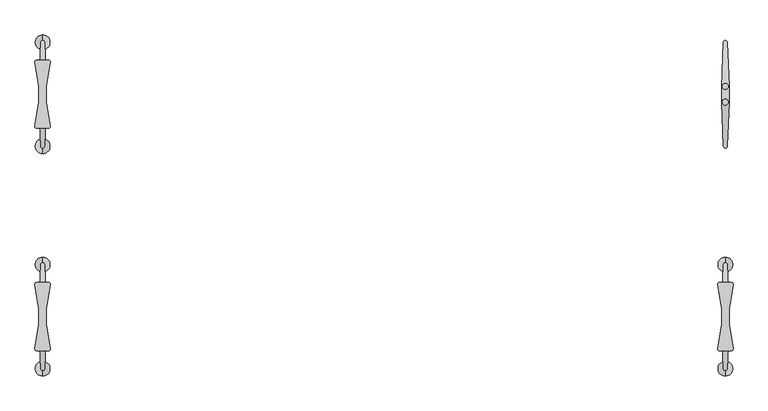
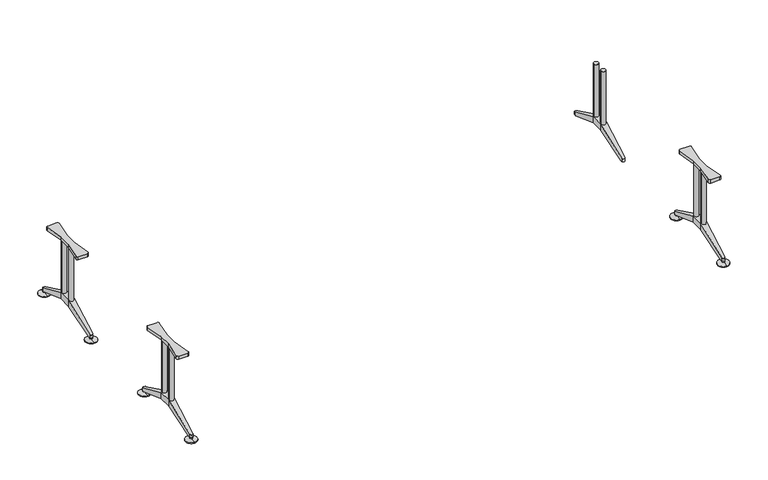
"""IFC4 building model written with IfcOpenShell, lengths in millimetres: furniture geometry, Furniture_Wilkhahn_620-46_Logon Table-Rectangle : Logon 620/46_5200L x 3000W x 730H."""

from ifc_helpers import new_model, si_unit, point, frame, frame_2d, origin, place, context, project, spatial, polyline, circle_curve, ellipse_curve, trimmed, segment, composite_curve, outline, extrude, source, transform, mapped, element, save
from ifc_brep_helpers import plane_surface, cylinder_surface, revolved_surface, advanced_brep


def furniture_3627eb8b(model_context):
    return source(origin(), model_context, "Body", "SolidModel", [
        advanced_brep(
        [(2275.0, 828.9511544, 140.0), (2275.0, 722.9511544, 140.0), (2275.0, 722.9511544, 195.0), (2275.0, 828.9511544, 195.0), (2325.0, 828.9511544, 195.0), (2325.0, 722.9511544, 195.0), (2325.0, 722.9511544, 140.0), (2325.0, 828.9511544, 140.0), (2313.4930419, 1113.9998784, 27.0), (2286.5069581, 1113.9998784, 27.0), (2287.0105795, 1126.4755164, 27.0), (2300.0, 1138.9511544, 27.0), (2312.9894205, 1126.4755164, 27.0), (2312.9894205, 1126.4755164, 56.4159205), (2300.0, 1138.9511544, 50.6048844), (2287.0105795, 1126.4755164, 56.4159205), (2312.9894205, 425.4267924, 56.4159205), (2312.9894205, 425.4267924, 27.0), (2313.4930419, 437.9024304, 27.0), (2287.0105795, 425.4267924, 27.0), (2287.0105795, 425.4267924, 56.4159205), (2286.5069581, 437.9024304, 27.0), (2300.0, 412.9511544, 27.0), (2300.0, 412.9511544, 50.6048844)],
        [
            (0, 1),
            (1, 2),
            (2, 3),
            (3, 0),
            (4, 5),
            (5, 6),
            (6, 7),
            (7, 4),
            (8, 9),
            (9, 10),
            (10, 11, circle_curve(frame((2300.0, 1125.9511544, 27.0), z_axis=(0.0, 0.0, -1.0), x_axis=(1.0000000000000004, 0.0, 0.0)), 13.0)),
            (11, 12, circle_curve(frame((2300.0, 1125.9511544, 27.0), z_axis=(0.0, 0.0, -1.0), x_axis=(1.0000000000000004, 0.0, 0.0)), 13.0)),
            (12, 8),
            (3, 4),
            (4, 13),
            (13, 14, ellipse_curve(frame((2300.0, 1125.9511544, 56.6601634), z_axis=(0.0, 0.42223330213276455, 0.9064871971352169), x_axis=(0.0, 0.9064871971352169, -0.42223330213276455)), 14.341074, 13.0)),
            (14, 15, ellipse_curve(frame((2300.0, 1125.9511544, 56.6601634), z_axis=(0.0, 0.42223330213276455, 0.9064871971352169), x_axis=(0.0, 0.9064871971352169, -0.42223330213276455)), 14.341074, 13.0)),
            (15, 3),
            (7, 0),
            (0, 9),
            (8, 7),
            (16, 17),
            (17, 18),
            (18, 6),
            (5, 16),
            (19, 20),
            (20, 2),
            (1, 21),
            (21, 19),
            (2, 5),
            (6, 1),
            (19, 22, circle_curve(frame((2300.0, 425.9511544, 27.0), z_axis=(0.0, 0.0, 1.0), x_axis=(1.0000000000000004, 0.0, 0.0)), 13.0)),
            (22, 17, circle_curve(frame((2300.0, 425.9511544, 27.0), z_axis=(0.0, 0.0, 1.0), x_axis=(1.0000000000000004, 0.0, 0.0)), 13.0)),
            (16, 23, ellipse_curve(frame((2300.0, 425.9511544, 56.6601634), z_axis=(0.0, 0.42223330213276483, -0.906487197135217), x_axis=(0.0, -0.906487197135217, -0.42223330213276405)), 14.341074, 13.0)),
            (23, 20, ellipse_curve(frame((2300.0, 425.9511544, 56.6601634), z_axis=(0.0, 0.42223330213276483, -0.906487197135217), x_axis=(0.0, -0.906487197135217, -0.42223330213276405)), 14.341074, 13.0)),
            (15, 10),
            (13, 12),
            (21, 18),
        ],
        [
            plane_surface(frame((2275.0, 1122.2046146, 27.0), z_axis=(-1.0, 0.0, 0.0), x_axis=(0.0, -1.0, 0.0))),
            plane_surface(frame((2325.0, 1122.2046146, 27.0), z_axis=(1.0, 0.0, 0.0), x_axis=(0.0, 1.0, 0.0))),
            plane_surface(frame((2325.0, 1113.9998784, 27.0), z_axis=(0.0, 0.0, -1.0), x_axis=(-1.0, 0.0, 0.0))),
            plane_surface(frame((2325.0, 1138.9511544, 50.6048844), z_axis=(0.0, 0.42223330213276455, 0.9064871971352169), x_axis=(-1.0, 0.0, 0.0))),
            plane_surface(frame((2325.0, 828.9511544, 140.0), z_axis=(0.0, -0.36852267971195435, -0.9296187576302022), x_axis=(-1.0, 0.0, 0.0))),
            plane_surface(frame((2325.0, 722.9511544, 195.0), z_axis=(0.9991861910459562, -0.04033553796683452, 0.0), x_axis=(0.0, 0.0, -1.0))),
            plane_surface(frame((2287.0105795, 425.4267924, 195.0), z_axis=(-0.9991861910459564, -0.0403355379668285, 0.0), x_axis=(0.0, 0.0, -1.0))),
            plane_surface(frame((2325.0, 828.9511544, 195.0), z_axis=(0.0, 0.0, 1.0), x_axis=(-1.0, 0.0, 0.0))),
            plane_surface(frame((2325.0, 722.9511544, 140.0), z_axis=(0.0, 0.0, -1.0), x_axis=(-1.0, 0.0, 0.0))),
            cylinder_surface(frame((2300.0, 425.9511544, 0.0), z_axis=(0.0, 0.0, -1.0), x_axis=(1.0000000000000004, 0.0, 0.0)), 13.0),
            plane_surface(frame((2275.0, 828.9511544, 195.0), z_axis=(-0.9991861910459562, 0.040335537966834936, 0.0), x_axis=(0.0, 0.0, -1.0))),
            cylinder_surface(frame((2300.0, 1125.9511544, -14.190167), z_axis=(0.0, 0.0, -1.0), x_axis=(1.0000000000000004, 0.0, 0.0)), 13.0),
            plane_surface(frame((2312.9894205, 1126.4755164, 195.0), z_axis=(0.9991861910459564, 0.04033553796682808, 0.0), x_axis=(0.0, 0.0, -1.0))),
            plane_surface(frame((2325.0, 722.9511544, 195.0), z_axis=(0.0, -0.4222333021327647, 0.9064871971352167), x_axis=(-1.0, 0.0, 0.0))),
            plane_surface(frame((2325.0, 412.9511544, 27.0), z_axis=(0.0, 0.0, -1.0), x_axis=(-1.0, 0.0, 0.0))),
            plane_surface(frame((2325.0, 437.9024304, 27.0), z_axis=(0.0, 0.36852267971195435, -0.929618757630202), x_axis=(-1.0, 0.0, 0.0))),
        ],
        [
            (0, [[1, 2, 3, 4]]),
            (1, [[5, 6, 7, 8]]),
            (2, [[9, 10, 11, 12, 13]]),
            (3, [[14, 15, 16, 17, 18]]),
            (4, [[19, 20, -9, 21]]),
            (5, [[22, 23, 24, -6, 25]]),
            (6, [[26, 27, -2, 28, 29]]),
            (7, [[-3, 30, -5, -14]]),
            (8, [[-1, -19, -7, 31]]),
            (9, [[-26, 32, 33, -22, 34, 35]]),
            (10, [[36, -10, -20, -4, -18]]),
            (11, [[-36, -17, -16, 37, -12, -11]]),
            (12, [[-37, -15, -8, -21, -13]]),
            (13, [[-30, -27, -35, -34, -25]]),
            (14, [[38, -23, -33, -32, -29]]),
            (15, [[-31, -24, -38, -28]]),
        ],
    ),
        extrude(outline(composite_curve([segment(trimmed(circle_curve(frame_2d((2300.0, 722.9511544)), 20.0), [point((2280.0, 722.9511544))], [point((2320.0, 722.9511544))], False, "CARTESIAN"), True, "CONTINUOUS"), segment(trimmed(circle_curve(frame_2d((2300.0, 722.9511544)), 20.0), [point((2320.0, 722.9511544))], [point((2280.0, 722.9511544))], False, "CARTESIAN"), True, "CONTINUOUS")], self_intersect=False)), frame((0.0, 0.0, 140.0), z_axis=(0.0, 0.0, 1.0), x_axis=(1.0, 0.0, 0.0)), (0.0, 0.0, 1.0), 535.0),
        extrude(outline(composite_curve([segment(trimmed(circle_curve(frame_2d((2300.0, 828.9511544)), 20.0), [point((2280.0, 828.9511544))], [point((2320.0, 828.9511544))], False, "CARTESIAN"), True, "CONTINUOUS"), segment(trimmed(circle_curve(frame_2d((2300.0, 828.9511544)), 20.0), [point((2320.0, 828.9511544))], [point((2280.0, 828.9511544))], False, "CARTESIAN"), True, "CONTINUOUS")], self_intersect=False)), frame((0.0, 0.0, 140.0), z_axis=(0.0, 0.0, 1.0), x_axis=(1.0, 0.0, 0.0)), (0.0, 0.0, 1.0), 535.0),
        advanced_brep(
        [(-2300.0, 425.4267924, 0.0), (-2300.0, 475.4267924, 0.0), (-2300.0, 375.4267924, 0.0), (-2300.0, 475.4267924, 6.0), (-2300.0, 375.4267924, 6.0), (-2300.0, 437.9024304, 17.0), (-2300.0, 412.9511544, 17.0), (-2300.0, 437.9024304, 27.0), (-2300.0, 412.9511544, 27.0), (-2300.0, 425.4267924, 27.0)],
        [
            (0, 1),
            (1, 2, circle_curve(frame((-2300.0, 425.4267924, 0.0), z_axis=(0.0, 0.0, -1.0), x_axis=(0.0, -1.0000000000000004, 0.0)), 50.0)),
            (2, 0),
            (2, 1, circle_curve(frame((-2300.0, 425.4267924, 0.0), z_axis=(0.0, 0.0, -1.0), x_axis=(0.0, -1.0000000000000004, 0.0)), 50.0)),
            (1, 3),
            (3, 4, circle_curve(frame((-2300.0, 425.4267924, 6.0), z_axis=(0.0, 0.0, -1.0), x_axis=(0.0, -1.0000000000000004, 0.0)), 50.0)),
            (4, 2),
            (4, 3, circle_curve(frame((-2300.0, 425.4267924, 6.0), z_axis=(0.0, 0.0, -1.0), x_axis=(0.0, -1.0000000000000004, 0.0)), 50.0)),
            (3, 5),
            (5, 6, circle_curve(frame((-2300.0, 425.4267924, 17.0), z_axis=(0.0, 0.0, -1.0), x_axis=(0.0, -1.0000000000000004, 0.0)), 12.475638)),
            (6, 4),
            (6, 5, circle_curve(frame((-2300.0, 425.4267924, 17.0), z_axis=(0.0, 0.0, -1.0), x_axis=(0.0, -1.0000000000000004, 0.0)), 12.475638)),
            (5, 7),
            (7, 8, circle_curve(frame((-2300.0, 425.4267924, 27.0), z_axis=(0.0, 0.0, -1.0), x_axis=(0.0, -1.0000000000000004, 0.0)), 12.475638)),
            (8, 6),
            (8, 7, circle_curve(frame((-2300.0, 425.4267924, 27.0), z_axis=(0.0, 0.0, -1.0), x_axis=(0.0, -1.0000000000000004, 0.0)), 12.475638)),
            (7, 9),
            (9, 8),
        ],
        [
            plane_surface(frame((-2300.0, 425.4267924, 0.0), z_axis=(0.0, 0.0, -1.0), x_axis=(0.0, -1.0, 0.0))),
            cylinder_surface(frame((-2300.0, 425.4267924, 27.0), z_axis=(0.0, 0.0, -1.0), x_axis=(0.0, -1.0000000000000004, 0.0)), 50.0),
            revolved_surface(polyline([(-2300.0, 412.9511544, 17.0), (-2300.0, 375.4267924, 6.0)]), (-2300.0, 425.4267924, 27.0), (0.0, 0.0, -1.0)),
            cylinder_surface(frame((-2300.0, 425.4267924, 27.0), z_axis=(0.0, 0.0, -1.0), x_axis=(0.0, -1.0000000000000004, 0.0)), 12.475638),
            plane_surface(frame((-2300.0, 425.4267924, 27.0), z_axis=(0.0, 0.0, 1.0), x_axis=(0.0, -1.0, 0.0))),
        ],
        [
            (0, [[1, 2, 3]]),
            (0, [[-3, 4, -1]]),
            (1, [[5, 6, 7, -2]]),
            (1, [[-7, 8, -5, -4]]),
            (2, [[9, 10, 11, -6]]),
            (2, [[-11, 12, -9, -8]]),
            (3, [[13, 14, 15, -10]]),
            (3, [[-15, 16, -13, -12]]),
            (4, [[17, 18, -14]]),
            (4, [[-18, -17, -16]]),
        ],
    ),
        advanced_brep(
        [(-2300.0, 1076.4755164, 0.0), (-2300.0, 1126.4755164, 0.0), (-2300.0, 1176.4755164, 0.0), (-2300.0, 1076.4755164, 6.0), (-2300.0, 1176.4755164, 6.0), (-2300.0, 1113.9998784, 17.0), (-2300.0, 1138.9511544, 17.0), (-2300.0, 1113.9998784, 27.0), (-2300.0, 1138.9511544, 27.0), (-2300.0, 1126.4755164, 27.0)],
        [
            (0, 1),
            (1, 2),
            (2, 0, circle_curve(frame((-2300.0, 1126.4755164, 0.0), z_axis=(0.0, 0.0, -1.0), x_axis=(0.0, 1.0000000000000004, 0.0)), 50.0)),
            (0, 2, circle_curve(frame((-2300.0, 1126.4755164, 0.0), z_axis=(0.0, 0.0, -1.0), x_axis=(0.0, 1.0000000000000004, 0.0)), 50.0)),
            (3, 0),
            (2, 4),
            (4, 3, circle_curve(frame((-2300.0, 1126.4755164, 6.0), z_axis=(0.0, 0.0, -1.0), x_axis=(0.0, 1.0000000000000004, 0.0)), 50.0)),
            (3, 4, circle_curve(frame((-2300.0, 1126.4755164, 6.0), z_axis=(0.0, 0.0, -1.0), x_axis=(0.0, 1.0000000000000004, 0.0)), 50.0)),
            (5, 3),
            (4, 6),
            (6, 5, circle_curve(frame((-2300.0, 1126.4755164, 17.0), z_axis=(0.0, 0.0, -1.0), x_axis=(0.0, 1.0000000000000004, 0.0)), 12.475638)),
            (5, 6, circle_curve(frame((-2300.0, 1126.4755164, 17.0), z_axis=(0.0, 0.0, -1.0), x_axis=(0.0, 1.0000000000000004, 0.0)), 12.475638)),
            (7, 5),
            (6, 8),
            (8, 7, circle_curve(frame((-2300.0, 1126.4755164, 27.0), z_axis=(0.0, 0.0, -1.0), x_axis=(0.0, 1.0000000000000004, 0.0)), 12.475638)),
            (7, 8, circle_curve(frame((-2300.0, 1126.4755164, 27.0), z_axis=(0.0, 0.0, -1.0), x_axis=(0.0, 1.0000000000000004, 0.0)), 12.475638)),
            (9, 7),
            (8, 9),
        ],
        [
            plane_surface(frame((-2300.0, 1126.4755164, 0.0), z_axis=(0.0, 0.0, -1.0), x_axis=(0.0, 1.0, 0.0))),
            cylinder_surface(frame((-2300.0, 1126.4755164, 27.0), z_axis=(0.0, 0.0, 1.0), x_axis=(0.0, 1.0000000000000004, 0.0)), 50.0),
            revolved_surface(polyline([(-2300.0, 1176.4755164, 6.0), (-2300.0, 1138.9511544, 17.0)]), (-2300.0, 1126.4755164, 27.0), (0.0, 0.0, 1.0)),
            cylinder_surface(frame((-2300.0, 1126.4755164, 27.0), z_axis=(0.0, 0.0, 1.0), x_axis=(0.0, 1.0000000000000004, 0.0)), 12.475638),
            plane_surface(frame((-2300.0, 1126.4755164, 27.0), z_axis=(0.0, 0.0, 1.0), x_axis=(0.0, 1.0, 0.0))),
        ],
        [
            (0, [[1, 2, 3]]),
            (0, [[-2, -1, 4]]),
            (1, [[5, -3, 6, 7]]),
            (1, [[-6, -4, -5, 8]]),
            (2, [[9, -7, 10, 11]]),
            (2, [[-10, -8, -9, 12]]),
            (3, [[13, -11, 14, 15]]),
            (3, [[-14, -12, -13, 16]]),
            (4, [[17, -15, 18]]),
            (4, [[-18, -16, -17]]),
        ],
    ),
        extrude(outline(composite_curve([segment(polyline([(-2325.0, 722.9511544), (-2325.0, 828.9511544), (-2351.7160071, 992.0109222)]), True, "CONTINUOUS"), segment(trimmed(circle_curve(frame_2d((-2339.8739001, 993.9511544)), 12.0), [point((-2351.7160071, 992.0109222))], [point((-2339.8739001, 1005.9511544))], False, "CARTESIAN"), True, "CONTINUOUS"), segment(polyline([(-2339.8739001, 1005.9511544), (-2260.1260999, 1005.9511544)]), True, "CONTINUOUS"), segment(trimmed(circle_curve(frame_2d((-2260.1260999, 993.9511544)), 12.0), [point((-2260.1260999, 1005.9511544))], [point((-2248.2839929, 992.0109222))], False, "CARTESIAN"), True, "CONTINUOUS"), segment(polyline([(-2248.2839929, 992.0109222), (-2275.0, 828.9511544), (-2275.0, 722.9511544), (-2248.2839929, 559.8913867)]), True, "CONTINUOUS"), segment(trimmed(circle_curve(frame_2d((-2260.1260999, 557.9511544)), 12.0), [point((-2248.2839929, 559.8913867))], [point((-2260.1260999, 545.9511544))], False, "CARTESIAN"), True, "CONTINUOUS"), segment(polyline([(-2260.1260999, 545.9511544), (-2339.8739001, 545.9511544)]), True, "CONTINUOUS"), segment(trimmed(circle_curve(frame_2d((-2339.8739001, 557.9511544)), 12.0), [point((-2339.8739001, 545.9511544))], [point((-2351.7160071, 559.8913867))], False, "CARTESIAN"), True, "CONTINUOUS"), segment(polyline([(-2351.7160071, 559.8913867), (-2325.0, 722.9511544)]), True, "CONTINUOUS")], self_intersect=False)), frame((0.0, 0.0, 675.0), z_axis=(0.0, 0.0, 1.0), x_axis=(1.0, 0.0, 0.0)), (0.0, 0.0, 1.0), 29.0),
        advanced_brep(
        [(-2275.0, 828.9511544, 140.0), (-2275.0, 828.9511544, 195.0), (-2275.0, 722.9511544, 195.0), (-2275.0, 722.9511544, 140.0), (-2325.0, 828.9511544, 195.0), (-2325.0, 828.9511544, 140.0), (-2325.0, 722.9511544, 140.0), (-2325.0, 722.9511544, 195.0), (-2313.4930419, 1113.9998784, 27.0), (-2312.9894205, 1126.4755164, 27.0), (-2300.0, 1138.9511544, 27.0), (-2287.0105795, 1126.4755164, 27.0), (-2286.5069581, 1113.9998784, 27.0), (-2287.0105795, 1126.4755164, 56.4159205), (-2300.0, 1138.9511544, 50.6048844), (-2312.9894205, 1126.4755164, 56.4159205), (-2312.9894205, 425.4267924, 56.4159205), (-2313.4930419, 437.9024304, 27.0), (-2312.9894205, 425.4267924, 27.0), (-2287.0105795, 425.4267924, 27.0), (-2286.5069581, 437.9024304, 27.0), (-2287.0105795, 425.4267924, 56.4159205), (-2300.0, 412.9511544, 50.6048844), (-2300.0, 412.9511544, 27.0)],
        [
            (0, 1),
            (1, 2),
            (2, 3),
            (3, 0),
            (4, 5),
            (5, 6),
            (6, 7),
            (7, 4),
            (8, 9),
            (9, 10, circle_curve(frame((-2300.0, 1125.9511544, 27.0), z_axis=(0.0, 0.0, -1.0), x_axis=(-1.0000000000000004, 0.0, 0.0)), 13.0)),
            (10, 11, circle_curve(frame((-2300.0, 1125.9511544, 27.0), z_axis=(0.0, 0.0, -1.0), x_axis=(-1.0000000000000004, 0.0, 0.0)), 13.0)),
            (11, 12),
            (12, 8),
            (1, 13),
            (13, 14, ellipse_curve(frame((-2300.0, 1125.9511544, 56.6601634), z_axis=(0.0, 0.42223330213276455, 0.9064871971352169), x_axis=(0.0, 0.9064871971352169, -0.42223330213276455)), 14.341074, 13.0)),
            (14, 15, ellipse_curve(frame((-2300.0, 1125.9511544, 56.6601634), z_axis=(0.0, 0.42223330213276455, 0.9064871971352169), x_axis=(0.0, 0.9064871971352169, -0.42223330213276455)), 14.341074, 13.0)),
            (15, 4),
            (4, 1),
            (5, 8),
            (12, 0),
            (0, 5),
            (16, 7),
            (6, 17),
            (17, 18),
            (18, 16),
            (19, 20),
            (20, 3),
            (2, 21),
            (21, 19),
            (7, 2),
            (3, 6),
            (21, 22, ellipse_curve(frame((-2300.0, 425.9511544, 56.6601634), z_axis=(0.0, 0.42223330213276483, -0.906487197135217), x_axis=(0.0, -0.906487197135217, -0.42223330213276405)), 14.341074, 13.0)),
            (22, 16, ellipse_curve(frame((-2300.0, 425.9511544, 56.6601634), z_axis=(0.0, 0.42223330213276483, -0.906487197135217), x_axis=(0.0, -0.906487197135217, -0.42223330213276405)), 14.341074, 13.0)),
            (18, 23, circle_curve(frame((-2300.0, 425.9511544, 27.0), z_axis=(0.0, 0.0, 1.0), x_axis=(-1.0000000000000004, 0.0, 0.0)), 13.0)),
            (23, 19, circle_curve(frame((-2300.0, 425.9511544, 27.0), z_axis=(0.0, 0.0, 1.0), x_axis=(-1.0000000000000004, 0.0, 0.0)), 13.0)),
            (11, 13),
            (9, 15),
            (17, 20),
        ],
        [
            plane_surface(frame((-2275.0, 1122.2046146, 27.0), z_axis=(1.0, 0.0, 0.0), x_axis=(0.0, -1.0, 0.0))),
            plane_surface(frame((-2325.0, 1122.2046146, 27.0), z_axis=(-1.0, 0.0, 0.0), x_axis=(0.0, 1.0, 0.0))),
            plane_surface(frame((-2325.0, 1113.9998784, 27.0), z_axis=(0.0, 0.0, -1.0), x_axis=(1.0, 0.0, 0.0))),
            plane_surface(frame((-2325.0, 1138.9511544, 50.6048844), z_axis=(0.0, 0.42223330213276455, 0.9064871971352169), x_axis=(1.0, 0.0, 0.0))),
            plane_surface(frame((-2325.0, 828.9511544, 140.0), z_axis=(0.0, -0.36852267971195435, -0.9296187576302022), x_axis=(1.0, 0.0, 0.0))),
            plane_surface(frame((-2325.0, 722.9511544, 195.0), z_axis=(-0.9991861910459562, -0.04033553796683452, 0.0), x_axis=(0.0, 0.0, -1.0))),
            plane_surface(frame((-2287.0105795, 425.4267924, 195.0), z_axis=(0.9991861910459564, -0.0403355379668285, 0.0), x_axis=(0.0, 0.0, -1.0))),
            plane_surface(frame((-2325.0, 828.9511544, 195.0), z_axis=(0.0, 0.0, 1.0), x_axis=(1.0, 0.0, 0.0))),
            plane_surface(frame((-2325.0, 722.9511544, 140.0), z_axis=(0.0, 0.0, -1.0), x_axis=(1.0, 0.0, 0.0))),
            cylinder_surface(frame((-2300.0, 425.9511544, 0.0), z_axis=(0.0, 0.0, -1.0), x_axis=(-1.0000000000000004, 0.0, 0.0)), 13.0),
            plane_surface(frame((-2275.0, 828.9511544, 195.0), z_axis=(0.9991861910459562, 0.040335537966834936, 0.0), x_axis=(0.0, 0.0, -1.0))),
            cylinder_surface(frame((-2300.0, 1125.9511544, -14.190167), z_axis=(0.0, 0.0, -1.0), x_axis=(-1.0000000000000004, 0.0, 0.0)), 13.0),
            plane_surface(frame((-2312.9894205, 1126.4755164, 195.0), z_axis=(-0.9991861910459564, 0.04033553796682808, 0.0), x_axis=(0.0, 0.0, -1.0))),
            plane_surface(frame((-2325.0, 722.9511544, 195.0), z_axis=(0.0, -0.4222333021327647, 0.9064871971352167), x_axis=(1.0, 0.0, 0.0))),
            plane_surface(frame((-2325.0, 412.9511544, 27.0), z_axis=(0.0, 0.0, -1.0), x_axis=(1.0, 0.0, 0.0))),
            plane_surface(frame((-2325.0, 437.9024304, 27.0), z_axis=(0.0, 0.36852267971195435, -0.929618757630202), x_axis=(1.0, 0.0, 0.0))),
        ],
        [
            (0, [[1, 2, 3, 4]]),
            (1, [[5, 6, 7, 8]]),
            (2, [[9, 10, 11, 12, 13]]),
            (3, [[14, 15, 16, 17, 18]]),
            (4, [[19, -13, 20, 21]]),
            (5, [[22, -7, 23, 24, 25]]),
            (6, [[26, 27, -3, 28, 29]]),
            (7, [[-18, -8, 30, -2]]),
            (8, [[31, -6, -21, -4]]),
            (9, [[32, 33, -25, 34, 35, -29]]),
            (10, [[-14, -1, -20, -12, 36]]),
            (11, [[-11, -10, 37, -16, -15, -36]]),
            (12, [[-9, -19, -5, -17, -37]]),
            (13, [[-22, -33, -32, -28, -30]]),
            (14, [[-26, -35, -34, -24, 38]]),
            (15, [[-27, -38, -23, -31]]),
        ],
    ),
        extrude(outline(composite_curve([segment(trimmed(circle_curve(frame_2d((-2300.0, 722.9511544)), 20.0), [point((-2280.0, 722.9511544))], [point((-2320.0, 722.9511544))], False, "CARTESIAN"), True, "CONTINUOUS"), segment(trimmed(circle_curve(frame_2d((-2300.0, 722.9511544)), 20.0), [point((-2320.0, 722.9511544))], [point((-2280.0, 722.9511544))], False, "CARTESIAN"), True, "CONTINUOUS")], self_intersect=False)), frame((0.0, 0.0, 140.0), z_axis=(0.0, 0.0, 1.0), x_axis=(1.0, 0.0, 0.0)), (0.0, 0.0, 1.0), 535.0),
        extrude(outline(composite_curve([segment(trimmed(circle_curve(frame_2d((-2300.0, 828.9511544)), 20.0), [point((-2280.0, 828.9511544))], [point((-2320.0, 828.9511544))], False, "CARTESIAN"), True, "CONTINUOUS"), segment(trimmed(circle_curve(frame_2d((-2300.0, 828.9511544)), 20.0), [point((-2320.0, 828.9511544))], [point((-2280.0, 828.9511544))], False, "CARTESIAN"), True, "CONTINUOUS")], self_intersect=False)), frame((0.0, 0.0, 140.0), z_axis=(0.0, 0.0, 1.0), x_axis=(1.0, 0.0, 0.0)), (0.0, 0.0, 1.0), 535.0),
        advanced_brep(
        [(2300.0, -373.5244836, 0.0), (2300.0, -423.5244836, 0.0), (2300.0, -323.5244836, 0.0), (2300.0, -423.5244836, 6.0), (2300.0, -323.5244836, 6.0), (2300.0, -386.0001216, 17.0), (2300.0, -361.0488456, 17.0), (2300.0, -386.0001216, 27.0), (2300.0, -361.0488456, 27.0), (2300.0, -373.5244836, 27.0)],
        [
            (0, 1),
            (1, 2, circle_curve(frame((2300.0, -373.5244836, 0.0), z_axis=(0.0, 0.0, -1.0), x_axis=(0.0, 1.0000000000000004, 0.0)), 50.0)),
            (2, 0),
            (2, 1, circle_curve(frame((2300.0, -373.5244836, 0.0), z_axis=(0.0, 0.0, -1.0), x_axis=(0.0, 1.0000000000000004, 0.0)), 50.0)),
            (1, 3),
            (3, 4, circle_curve(frame((2300.0, -373.5244836, 6.0), z_axis=(0.0, 0.0, -1.0), x_axis=(0.0, 1.0000000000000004, 0.0)), 50.0)),
            (4, 2),
            (4, 3, circle_curve(frame((2300.0, -373.5244836, 6.0), z_axis=(0.0, 0.0, -1.0), x_axis=(0.0, 1.0000000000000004, 0.0)), 50.0)),
            (3, 5),
            (5, 6, circle_curve(frame((2300.0, -373.5244836, 17.0), z_axis=(0.0, 0.0, -1.0), x_axis=(0.0, 1.0000000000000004, 0.0)), 12.475638)),
            (6, 4),
            (6, 5, circle_curve(frame((2300.0, -373.5244836, 17.0), z_axis=(0.0, 0.0, -1.0), x_axis=(0.0, 1.0000000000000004, 0.0)), 12.475638)),
            (5, 7),
            (7, 8, circle_curve(frame((2300.0, -373.5244836, 27.0), z_axis=(0.0, 0.0, -1.0), x_axis=(0.0, 1.0000000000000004, 0.0)), 12.475638)),
            (8, 6),
            (8, 7, circle_curve(frame((2300.0, -373.5244836, 27.0), z_axis=(0.0, 0.0, -1.0), x_axis=(0.0, 1.0000000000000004, 0.0)), 12.475638)),
            (7, 9),
            (9, 8),
        ],
        [
            plane_surface(frame((2300.0, -373.5244836, 0.0), z_axis=(0.0, 0.0, -1.0), x_axis=(0.0, 1.0, 0.0))),
            cylinder_surface(frame((2300.0, -373.5244836, 27.0), z_axis=(0.0, 0.0, -1.0), x_axis=(0.0, 1.0000000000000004, 0.0)), 50.0),
            revolved_surface(polyline([(2300.0, -361.0488456, 17.0), (2300.0, -323.5244836, 6.0)]), (2300.0, -373.5244836, 27.0), (0.0, 0.0, -1.0)),
            cylinder_surface(frame((2300.0, -373.5244836, 27.0), z_axis=(0.0, 0.0, -1.0), x_axis=(0.0, 1.0000000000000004, 0.0)), 12.475638),
            plane_surface(frame((2300.0, -373.5244836, 27.0), z_axis=(0.0, 0.0, 1.0), x_axis=(0.0, 1.0, 0.0))),
        ],
        [
            (0, [[1, 2, 3]]),
            (0, [[-3, 4, -1]]),
            (1, [[5, 6, 7, -2]]),
            (1, [[-7, 8, -5, -4]]),
            (2, [[9, 10, 11, -6]]),
            (2, [[-11, 12, -9, -8]]),
            (3, [[13, 14, 15, -10]]),
            (3, [[-15, 16, -13, -12]]),
            (4, [[17, 18, -14]]),
            (4, [[-18, -17, -16]]),
        ],
    ),
        advanced_brep(
        [(2300.0, -1024.5732076, 0.0), (2300.0, -1074.5732076, 0.0), (2300.0, -1124.5732076, 0.0), (2300.0, -1024.5732076, 6.0), (2300.0, -1124.5732076, 6.0), (2300.0, -1062.0975696, 17.0), (2300.0, -1087.0488456, 17.0), (2300.0, -1062.0975696, 27.0), (2300.0, -1087.0488456, 27.0), (2300.0, -1074.5732076, 27.0)],
        [
            (0, 1),
            (1, 2),
            (2, 0, circle_curve(frame((2300.0, -1074.5732076, 0.0), z_axis=(0.0, 0.0, -1.0), x_axis=(0.0, -1.0000000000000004, 0.0)), 50.0)),
            (0, 2, circle_curve(frame((2300.0, -1074.5732076, 0.0), z_axis=(0.0, 0.0, -1.0), x_axis=(0.0, -1.0000000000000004, 0.0)), 50.0)),
            (3, 0),
            (2, 4),
            (4, 3, circle_curve(frame((2300.0, -1074.5732076, 6.0), z_axis=(0.0, 0.0, -1.0), x_axis=(0.0, -1.0000000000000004, 0.0)), 50.0)),
            (3, 4, circle_curve(frame((2300.0, -1074.5732076, 6.0), z_axis=(0.0, 0.0, -1.0), x_axis=(0.0, -1.0000000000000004, 0.0)), 50.0)),
            (5, 3),
            (4, 6),
            (6, 5, circle_curve(frame((2300.0, -1074.5732076, 17.0), z_axis=(0.0, 0.0, -1.0), x_axis=(0.0, -1.0000000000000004, 0.0)), 12.475638)),
            (5, 6, circle_curve(frame((2300.0, -1074.5732076, 17.0), z_axis=(0.0, 0.0, -1.0), x_axis=(0.0, -1.0000000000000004, 0.0)), 12.475638)),
            (7, 5),
            (6, 8),
            (8, 7, circle_curve(frame((2300.0, -1074.5732076, 27.0), z_axis=(0.0, 0.0, -1.0), x_axis=(0.0, -1.0000000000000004, 0.0)), 12.475638)),
            (7, 8, circle_curve(frame((2300.0, -1074.5732076, 27.0), z_axis=(0.0, 0.0, -1.0), x_axis=(0.0, -1.0000000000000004, 0.0)), 12.475638)),
            (9, 7),
            (8, 9),
        ],
        [
            plane_surface(frame((2300.0, -1074.5732076, 0.0), z_axis=(0.0, 0.0, -1.0), x_axis=(0.0, -1.0, 0.0))),
            cylinder_surface(frame((2300.0, -1074.5732076, 27.0), z_axis=(0.0, 0.0, 1.0), x_axis=(0.0, -1.0000000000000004, 0.0)), 50.0),
            revolved_surface(polyline([(2300.0, -1124.5732076, 6.0), (2300.0, -1087.0488456, 17.0)]), (2300.0, -1074.5732076, 27.0), (0.0, 0.0, 1.0)),
            cylinder_surface(frame((2300.0, -1074.5732076, 27.0), z_axis=(0.0, 0.0, 1.0), x_axis=(0.0, -1.0000000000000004, 0.0)), 12.475638),
            plane_surface(frame((2300.0, -1074.5732076, 27.0), z_axis=(0.0, 0.0, 1.0), x_axis=(0.0, -1.0, 0.0))),
        ],
        [
            (0, [[1, 2, 3]]),
            (0, [[-2, -1, 4]]),
            (1, [[5, -3, 6, 7]]),
            (1, [[-6, -4, -5, 8]]),
            (2, [[9, -7, 10, 11]]),
            (2, [[-10, -8, -9, 12]]),
            (3, [[13, -11, 14, 15]]),
            (3, [[-14, -12, -13, 16]]),
            (4, [[17, -15, 18]]),
            (4, [[-18, -16, -17]]),
        ],
    ),
        extrude(outline(composite_curve([segment(polyline([(2325.0, -671.0488456), (2325.0, -777.0488456), (2351.7160071, -940.1086133)]), True, "CONTINUOUS"), segment(trimmed(circle_curve(frame_2d((2339.8739001, -942.0488456)), 12.0), [point((2351.7160071, -940.1086133))], [point((2339.8739001, -954.0488456))], False, "CARTESIAN"), True, "CONTINUOUS"), segment(polyline([(2339.8739001, -954.0488456), (2260.1260999, -954.0488456)]), True, "CONTINUOUS"), segment(trimmed(circle_curve(frame_2d((2260.1260999, -942.0488456)), 12.0), [point((2260.1260999, -954.0488456))], [point((2248.2839929, -940.1086133))], False, "CARTESIAN"), True, "CONTINUOUS"), segment(polyline([(2248.2839929, -940.1086133), (2275.0, -777.0488456), (2275.0, -671.0488456), (2248.2839929, -507.9890778)]), True, "CONTINUOUS"), segment(trimmed(circle_curve(frame_2d((2260.1260999, -506.0488456)), 12.0), [point((2248.2839929, -507.9890778))], [point((2260.1260999, -494.0488456))], False, "CARTESIAN"), True, "CONTINUOUS"), segment(polyline([(2260.1260999, -494.0488456), (2339.8739001, -494.0488456)]), True, "CONTINUOUS"), segment(trimmed(circle_curve(frame_2d((2339.8739001, -506.0488456)), 12.0), [point((2339.8739001, -494.0488456))], [point((2351.7160071, -507.9890778))], False, "CARTESIAN"), True, "CONTINUOUS"), segment(polyline([(2351.7160071, -507.9890778), (2325.0, -671.0488456)]), True, "CONTINUOUS")], self_intersect=False)), frame((0.0, 0.0, 675.0), z_axis=(0.0, 0.0, 1.0), x_axis=(1.0, 0.0, 0.0)), (0.0, 0.0, 1.0), 29.0),
        advanced_brep(
        [(2275.0, -777.0488456, 140.0), (2275.0, -777.0488456, 195.0), (2275.0, -671.0488456, 195.0), (2275.0, -671.0488456, 140.0), (2325.0, -777.0488456, 195.0), (2325.0, -777.0488456, 140.0), (2325.0, -671.0488456, 140.0), (2325.0, -671.0488456, 195.0), (2313.4930419, -1062.0975696, 27.0), (2312.9894205, -1074.5732076, 27.0), (2300.0, -1087.0488456, 27.0), (2287.0105795, -1074.5732076, 27.0), (2286.5069581, -1062.0975696, 27.0), (2287.0105795, -1074.5732076, 56.4159205), (2300.0, -1087.0488456, 50.6048844), (2312.9894205, -1074.5732076, 56.4159205), (2312.9894205, -373.5244836, 56.4159205), (2313.4930419, -386.0001216, 27.0), (2312.9894205, -373.5244836, 27.0), (2287.0105795, -373.5244836, 27.0), (2286.5069581, -386.0001216, 27.0), (2287.0105795, -373.5244836, 56.4159205), (2300.0, -361.0488456, 50.6048844), (2300.0, -361.0488456, 27.0)],
        [
            (0, 1),
            (1, 2),
            (2, 3),
            (3, 0),
            (4, 5),
            (5, 6),
            (6, 7),
            (7, 4),
            (8, 9),
            (9, 10, circle_curve(frame((2300.0, -1074.0488456, 27.0), z_axis=(0.0, 0.0, -1.0), x_axis=(1.0000000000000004, 0.0, 0.0)), 13.0)),
            (10, 11, circle_curve(frame((2300.0, -1074.0488456, 27.0), z_axis=(0.0, 0.0, -1.0), x_axis=(1.0000000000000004, 0.0, 0.0)), 13.0)),
            (11, 12),
            (12, 8),
            (1, 13),
            (13, 14, ellipse_curve(frame((2300.0, -1074.0488456, 56.6601634), z_axis=(0.0, -0.42223330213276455, 0.9064871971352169), x_axis=(0.0, -0.9064871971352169, -0.42223330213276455)), 14.341074, 13.0)),
            (14, 15, ellipse_curve(frame((2300.0, -1074.0488456, 56.6601634), z_axis=(0.0, -0.42223330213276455, 0.9064871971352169), x_axis=(0.0, -0.9064871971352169, -0.42223330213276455)), 14.341074, 13.0)),
            (15, 4),
            (4, 1),
            (5, 8),
            (12, 0),
            (0, 5),
            (16, 7),
            (6, 17),
            (17, 18),
            (18, 16),
            (19, 20),
            (20, 3),
            (2, 21),
            (21, 19),
            (7, 2),
            (3, 6),
            (21, 22, ellipse_curve(frame((2300.0, -374.0488456, 56.6601634), z_axis=(0.0, -0.42223330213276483, -0.906487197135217), x_axis=(0.0, 0.906487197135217, -0.42223330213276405)), 14.341074, 13.0)),
            (22, 16, ellipse_curve(frame((2300.0, -374.0488456, 56.6601634), z_axis=(0.0, -0.42223330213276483, -0.906487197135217), x_axis=(0.0, 0.906487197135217, -0.42223330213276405)), 14.341074, 13.0)),
            (18, 23, circle_curve(frame((2300.0, -374.0488456, 27.0), z_axis=(0.0, 0.0, 1.0), x_axis=(1.0000000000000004, 0.0, 0.0)), 13.0)),
            (23, 19, circle_curve(frame((2300.0, -374.0488456, 27.0), z_axis=(0.0, 0.0, 1.0), x_axis=(1.0000000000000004, 0.0, 0.0)), 13.0)),
            (11, 13),
            (9, 15),
            (17, 20),
        ],
        [
            plane_surface(frame((2275.0, -1070.3023057, 27.0), z_axis=(-1.0, 0.0, 0.0), x_axis=(0.0, 1.0, 0.0))),
            plane_surface(frame((2325.0, -1070.3023057, 27.0), z_axis=(1.0, 0.0, 0.0), x_axis=(0.0, -1.0, 0.0))),
            plane_surface(frame((2325.0, -1062.0975696, 27.0), z_axis=(0.0, 0.0, -1.0), x_axis=(-1.0, 0.0, 0.0))),
            plane_surface(frame((2325.0, -1087.0488456, 50.6048844), z_axis=(0.0, -0.42223330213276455, 0.9064871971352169), x_axis=(-1.0, 0.0, 0.0))),
            plane_surface(frame((2325.0, -777.0488456, 140.0), z_axis=(0.0, 0.36852267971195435, -0.9296187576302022), x_axis=(-1.0, 0.0, 0.0))),
            plane_surface(frame((2325.0, -671.0488456, 195.0), z_axis=(0.9991861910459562, 0.04033553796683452, 0.0), x_axis=(0.0, 0.0, -1.0))),
            plane_surface(frame((2287.0105795, -373.5244836, 195.0), z_axis=(-0.9991861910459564, 0.0403355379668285, 0.0), x_axis=(0.0, 0.0, -1.0))),
            plane_surface(frame((2325.0, -777.0488456, 195.0), z_axis=(0.0, 0.0, 1.0), x_axis=(-1.0, 0.0, 0.0))),
            plane_surface(frame((2325.0, -671.0488456, 140.0), z_axis=(0.0, 0.0, -1.0), x_axis=(-1.0, 0.0, 0.0))),
            cylinder_surface(frame((2300.0, -374.0488456, 0.0), z_axis=(0.0, 0.0, -1.0), x_axis=(1.0000000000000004, 0.0, 0.0)), 13.0),
            plane_surface(frame((2275.0, -777.0488456, 195.0), z_axis=(-0.9991861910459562, -0.040335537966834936, 0.0), x_axis=(0.0, 0.0, -1.0))),
            cylinder_surface(frame((2300.0, -1074.0488456, -14.190167), z_axis=(0.0, 0.0, -1.0), x_axis=(1.0000000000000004, 0.0, 0.0)), 13.0),
            plane_surface(frame((2312.9894205, -1074.5732076, 195.0), z_axis=(0.9991861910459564, -0.04033553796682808, 0.0), x_axis=(0.0, 0.0, -1.0))),
            plane_surface(frame((2325.0, -671.0488456, 195.0), z_axis=(0.0, 0.4222333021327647, 0.9064871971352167), x_axis=(-1.0, 0.0, 0.0))),
            plane_surface(frame((2325.0, -361.0488456, 27.0), z_axis=(0.0, 0.0, -1.0), x_axis=(-1.0, 0.0, 0.0))),
            plane_surface(frame((2325.0, -386.0001216, 27.0), z_axis=(0.0, -0.36852267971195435, -0.929618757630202), x_axis=(-1.0, 0.0, 0.0))),
        ],
        [
            (0, [[1, 2, 3, 4]]),
            (1, [[5, 6, 7, 8]]),
            (2, [[9, 10, 11, 12, 13]]),
            (3, [[14, 15, 16, 17, 18]]),
            (4, [[19, -13, 20, 21]]),
            (5, [[22, -7, 23, 24, 25]]),
            (6, [[26, 27, -3, 28, 29]]),
            (7, [[-18, -8, 30, -2]]),
            (8, [[31, -6, -21, -4]]),
            (9, [[32, 33, -25, 34, 35, -29]]),
            (10, [[-14, -1, -20, -12, 36]]),
            (11, [[-11, -10, 37, -16, -15, -36]]),
            (12, [[-9, -19, -5, -17, -37]]),
            (13, [[-22, -33, -32, -28, -30]]),
            (14, [[-26, -35, -34, -24, 38]]),
            (15, [[-27, -38, -23, -31]]),
        ],
    ),
        extrude(outline(composite_curve([segment(trimmed(circle_curve(frame_2d((2300.0, -671.0488456)), 20.0), [point((2280.0, -671.0488456))], [point((2320.0, -671.0488456))], False, "CARTESIAN"), True, "CONTINUOUS"), segment(trimmed(circle_curve(frame_2d((2300.0, -671.0488456)), 20.0), [point((2320.0, -671.0488456))], [point((2280.0, -671.0488456))], False, "CARTESIAN"), True, "CONTINUOUS")], self_intersect=False)), frame((0.0, 0.0, 140.0), z_axis=(0.0, 0.0, 1.0), x_axis=(1.0, 0.0, 0.0)), (0.0, 0.0, 1.0), 535.0),
        extrude(outline(composite_curve([segment(trimmed(circle_curve(frame_2d((2300.0, -777.0488456)), 20.0), [point((2280.0, -777.0488456))], [point((2320.0, -777.0488456))], False, "CARTESIAN"), True, "CONTINUOUS"), segment(trimmed(circle_curve(frame_2d((2300.0, -777.0488456)), 20.0), [point((2320.0, -777.0488456))], [point((2280.0, -777.0488456))], False, "CARTESIAN"), True, "CONTINUOUS")], self_intersect=False)), frame((0.0, 0.0, 140.0), z_axis=(0.0, 0.0, 1.0), x_axis=(1.0, 0.0, 0.0)), (0.0, 0.0, 1.0), 535.0),
        advanced_brep(
        [(-2300.0, -373.5244836, 0.0), (-2300.0, -323.5244836, 0.0), (-2300.0, -423.5244836, 0.0), (-2300.0, -323.5244836, 6.0), (-2300.0, -423.5244836, 6.0), (-2300.0, -361.0488456, 17.0), (-2300.0, -386.0001216, 17.0), (-2300.0, -361.0488456, 27.0), (-2300.0, -386.0001216, 27.0), (-2300.0, -373.5244836, 27.0)],
        [
            (0, 1),
            (1, 2, circle_curve(frame((-2300.0, -373.5244836, 0.0), z_axis=(0.0, 0.0, -1.0), x_axis=(0.0, 1.0000000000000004, 0.0)), 50.0)),
            (2, 0),
            (2, 1, circle_curve(frame((-2300.0, -373.5244836, 0.0), z_axis=(0.0, 0.0, -1.0), x_axis=(0.0, 1.0000000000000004, 0.0)), 50.0)),
            (1, 3),
            (3, 4, circle_curve(frame((-2300.0, -373.5244836, 6.0), z_axis=(0.0, 0.0, -1.0), x_axis=(0.0, 1.0000000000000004, 0.0)), 50.0)),
            (4, 2),
            (4, 3, circle_curve(frame((-2300.0, -373.5244836, 6.0), z_axis=(0.0, 0.0, -1.0), x_axis=(0.0, 1.0000000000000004, 0.0)), 50.0)),
            (3, 5),
            (5, 6, circle_curve(frame((-2300.0, -373.5244836, 17.0), z_axis=(0.0, 0.0, -1.0), x_axis=(0.0, 1.0000000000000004, 0.0)), 12.475638)),
            (6, 4),
            (6, 5, circle_curve(frame((-2300.0, -373.5244836, 17.0), z_axis=(0.0, 0.0, -1.0), x_axis=(0.0, 1.0000000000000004, 0.0)), 12.475638)),
            (5, 7),
            (7, 8, circle_curve(frame((-2300.0, -373.5244836, 27.0), z_axis=(0.0, 0.0, -1.0), x_axis=(0.0, 1.0000000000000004, 0.0)), 12.475638)),
            (8, 6),
            (8, 7, circle_curve(frame((-2300.0, -373.5244836, 27.0), z_axis=(0.0, 0.0, -1.0), x_axis=(0.0, 1.0000000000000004, 0.0)), 12.475638)),
            (7, 9),
            (9, 8),
        ],
        [
            plane_surface(frame((-2300.0, -373.5244836, 0.0), z_axis=(0.0, 0.0, -1.0), x_axis=(0.0, 1.0, 0.0))),
            cylinder_surface(frame((-2300.0, -373.5244836, 27.0), z_axis=(0.0, 0.0, -1.0), x_axis=(0.0, 1.0000000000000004, 0.0)), 50.0),
            revolved_surface(polyline([(-2300.0, -361.0488456, 17.0), (-2300.0, -323.5244836, 6.0)]), (-2300.0, -373.5244836, 27.0), (0.0, 0.0, -1.0)),
            cylinder_surface(frame((-2300.0, -373.5244836, 27.0), z_axis=(0.0, 0.0, -1.0), x_axis=(0.0, 1.0000000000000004, 0.0)), 12.475638),
            plane_surface(frame((-2300.0, -373.5244836, 27.0), z_axis=(0.0, 0.0, 1.0), x_axis=(0.0, 1.0, 0.0))),
        ],
        [
            (0, [[1, 2, 3]]),
            (0, [[-3, 4, -1]]),
            (1, [[-2, 5, 6, 7]]),
            (1, [[-4, -7, 8, -5]]),
            (2, [[-6, 9, 10, 11]]),
            (2, [[-8, -11, 12, -9]]),
            (3, [[-10, 13, 14, 15]]),
            (3, [[-12, -15, 16, -13]]),
            (4, [[-14, 17, 18]]),
            (4, [[-16, -18, -17]]),
        ],
    ),
        advanced_brep(
        [(-2300.0, -1024.5732076, 0.0), (-2300.0, -1124.5732076, 0.0), (-2300.0, -1074.5732076, 0.0), (-2300.0, -1024.5732076, 6.0), (-2300.0, -1124.5732076, 6.0), (-2300.0, -1062.0975696, 17.0), (-2300.0, -1087.0488456, 17.0), (-2300.0, -1062.0975696, 27.0), (-2300.0, -1087.0488456, 27.0), (-2300.0, -1074.5732076, 27.0)],
        [
            (0, 1, circle_curve(frame((-2300.0, -1074.5732076, 0.0), z_axis=(0.0, 0.0, -1.0), x_axis=(0.0, -1.0000000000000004, 0.0)), 50.0)),
            (1, 2),
            (2, 0),
            (1, 0, circle_curve(frame((-2300.0, -1074.5732076, 0.0), z_axis=(0.0, 0.0, -1.0), x_axis=(0.0, -1.0000000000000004, 0.0)), 50.0)),
            (3, 4, circle_curve(frame((-2300.0, -1074.5732076, 6.0), z_axis=(0.0, 0.0, -1.0), x_axis=(0.0, -1.0000000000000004, 0.0)), 50.0)),
            (4, 1),
            (0, 3),
            (4, 3, circle_curve(frame((-2300.0, -1074.5732076, 6.0), z_axis=(0.0, 0.0, -1.0), x_axis=(0.0, -1.0000000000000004, 0.0)), 50.0)),
            (5, 6, circle_curve(frame((-2300.0, -1074.5732076, 17.0), z_axis=(0.0, 0.0, -1.0), x_axis=(0.0, -1.0000000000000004, 0.0)), 12.475638)),
            (6, 4),
            (3, 5),
            (6, 5, circle_curve(frame((-2300.0, -1074.5732076, 17.0), z_axis=(0.0, 0.0, -1.0), x_axis=(0.0, -1.0000000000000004, 0.0)), 12.475638)),
            (7, 8, circle_curve(frame((-2300.0, -1074.5732076, 27.0), z_axis=(0.0, 0.0, -1.0), x_axis=(0.0, -1.0000000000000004, 0.0)), 12.475638)),
            (8, 6),
            (5, 7),
            (8, 7, circle_curve(frame((-2300.0, -1074.5732076, 27.0), z_axis=(0.0, 0.0, -1.0), x_axis=(0.0, -1.0000000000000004, 0.0)), 12.475638)),
            (9, 8),
            (7, 9),
        ],
        [
            plane_surface(frame((-2300.0, -1074.5732076, 0.0), z_axis=(0.0, 0.0, -1.0), x_axis=(0.0, -1.0, 0.0))),
            cylinder_surface(frame((-2300.0, -1074.5732076, 27.0), z_axis=(0.0, 0.0, 1.0), x_axis=(0.0, -1.0000000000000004, 0.0)), 50.0),
            revolved_surface(polyline([(-2300.0, -1124.5732076, 6.0), (-2300.0, -1087.0488456, 17.0)]), (-2300.0, -1074.5732076, 27.0), (0.0, 0.0, 1.0)),
            cylinder_surface(frame((-2300.0, -1074.5732076, 27.0), z_axis=(0.0, 0.0, 1.0), x_axis=(0.0, -1.0000000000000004, 0.0)), 12.475638),
            plane_surface(frame((-2300.0, -1074.5732076, 27.0), z_axis=(0.0, 0.0, 1.0), x_axis=(0.0, -1.0, 0.0))),
        ],
        [
            (0, [[1, 2, 3]]),
            (0, [[4, -3, -2]]),
            (1, [[5, 6, -1, 7]]),
            (1, [[8, -7, -4, -6]]),
            (2, [[9, 10, -5, 11]]),
            (2, [[12, -11, -8, -10]]),
            (3, [[13, 14, -9, 15]]),
            (3, [[16, -15, -12, -14]]),
            (4, [[17, -13, 18]]),
            (4, [[-18, -16, -17]]),
        ],
    ),
        extrude(outline(composite_curve([segment(polyline([(-2325.0, -671.0488456), (-2351.7160071, -507.9890778)]), True, "CONTINUOUS"), segment(trimmed(circle_curve(frame_2d((-2339.8739001, -506.0488456)), 12.0), [point((-2351.7160071, -507.9890778))], [point((-2339.8739001, -494.0488456))], False, "CARTESIAN"), True, "CONTINUOUS"), segment(polyline([(-2339.8739001, -494.0488456), (-2260.1260999, -494.0488456)]), True, "CONTINUOUS"), segment(trimmed(circle_curve(frame_2d((-2260.1260999, -506.0488456)), 12.0), [point((-2260.1260999, -494.0488456))], [point((-2248.2839929, -507.9890778))], False, "CARTESIAN"), True, "CONTINUOUS"), segment(polyline([(-2248.2839929, -507.9890778), (-2275.0, -671.0488456), (-2275.0, -777.0488456), (-2248.2839929, -940.1086133)]), True, "CONTINUOUS"), segment(trimmed(circle_curve(frame_2d((-2260.1260999, -942.0488456)), 12.0), [point((-2248.2839929, -940.1086133))], [point((-2260.1260999, -954.0488456))], False, "CARTESIAN"), True, "CONTINUOUS"), segment(polyline([(-2260.1260999, -954.0488456), (-2339.8739001, -954.0488456)]), True, "CONTINUOUS"), segment(trimmed(circle_curve(frame_2d((-2339.8739001, -942.0488456)), 12.0), [point((-2339.8739001, -954.0488456))], [point((-2351.7160071, -940.1086133))], False, "CARTESIAN"), True, "CONTINUOUS"), segment(polyline([(-2351.7160071, -940.1086133), (-2325.0, -777.0488456), (-2325.0, -671.0488456)]), True, "CONTINUOUS")], self_intersect=False)), frame((0.0, 0.0, 675.0), z_axis=(0.0, 0.0, 1.0), x_axis=(1.0, 0.0, 0.0)), (0.0, 0.0, 1.0), 29.0),
        advanced_brep(
        [(-2275.0, -777.0488456, 140.0), (-2275.0, -671.0488456, 140.0), (-2275.0, -671.0488456, 195.0), (-2275.0, -777.0488456, 195.0), (-2325.0, -777.0488456, 195.0), (-2325.0, -671.0488456, 195.0), (-2325.0, -671.0488456, 140.0), (-2325.0, -777.0488456, 140.0), (-2313.4930419, -1062.0975696, 27.0), (-2286.5069581, -1062.0975696, 27.0), (-2287.0105795, -1074.5732076, 27.0), (-2300.0, -1087.0488456, 27.0), (-2312.9894205, -1074.5732076, 27.0), (-2312.9894205, -1074.5732076, 56.4159205), (-2300.0, -1087.0488456, 50.6048844), (-2287.0105795, -1074.5732076, 56.4159205), (-2312.9894205, -373.5244836, 56.4159205), (-2312.9894205, -373.5244836, 27.0), (-2313.4930419, -386.0001216, 27.0), (-2287.0105795, -373.5244836, 27.0), (-2287.0105795, -373.5244836, 56.4159205), (-2286.5069581, -386.0001216, 27.0), (-2300.0, -361.0488456, 27.0), (-2300.0, -361.0488456, 50.6048844)],
        [
            (0, 1),
            (1, 2),
            (2, 3),
            (3, 0),
            (4, 5),
            (5, 6),
            (6, 7),
            (7, 4),
            (8, 9),
            (9, 10),
            (10, 11, circle_curve(frame((-2300.0, -1074.0488456, 27.0), z_axis=(0.0, 0.0, -1.0), x_axis=(-1.0000000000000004, 0.0, 0.0)), 13.0)),
            (11, 12, circle_curve(frame((-2300.0, -1074.0488456, 27.0), z_axis=(0.0, 0.0, -1.0), x_axis=(-1.0000000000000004, 0.0, 0.0)), 13.0)),
            (12, 8),
            (3, 4),
            (4, 13),
            (13, 14, ellipse_curve(frame((-2300.0, -1074.0488456, 56.6601634), z_axis=(0.0, -0.42223330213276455, 0.9064871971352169), x_axis=(0.0, -0.9064871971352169, -0.42223330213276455)), 14.341074, 13.0)),
            (14, 15, ellipse_curve(frame((-2300.0, -1074.0488456, 56.6601634), z_axis=(0.0, -0.42223330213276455, 0.9064871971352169), x_axis=(0.0, -0.9064871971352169, -0.42223330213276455)), 14.341074, 13.0)),
            (15, 3),
            (7, 0),
            (0, 9),
            (8, 7),
            (16, 17),
            (17, 18),
            (18, 6),
            (5, 16),
            (19, 20),
            (20, 2),
            (1, 21),
            (21, 19),
            (2, 5),
            (6, 1),
            (19, 22, circle_curve(frame((-2300.0, -374.0488456, 27.0), z_axis=(0.0, 0.0, 1.0), x_axis=(-1.0000000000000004, 0.0, 0.0)), 13.0)),
            (22, 17, circle_curve(frame((-2300.0, -374.0488456, 27.0), z_axis=(0.0, 0.0, 1.0), x_axis=(-1.0000000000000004, 0.0, 0.0)), 13.0)),
            (16, 23, ellipse_curve(frame((-2300.0, -374.0488456, 56.6601634), z_axis=(0.0, -0.42223330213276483, -0.906487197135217), x_axis=(0.0, 0.906487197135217, -0.42223330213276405)), 14.341074, 13.0)),
            (23, 20, ellipse_curve(frame((-2300.0, -374.0488456, 56.6601634), z_axis=(0.0, -0.42223330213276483, -0.906487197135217), x_axis=(0.0, 0.906487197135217, -0.42223330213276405)), 14.341074, 13.0)),
            (15, 10),
            (13, 12),
            (21, 18),
        ],
        [
            plane_surface(frame((-2275.0, -1070.3023057, 27.0), z_axis=(1.0, 0.0, 0.0), x_axis=(0.0, 1.0, 0.0))),
            plane_surface(frame((-2325.0, -1070.3023057, 27.0), z_axis=(-1.0, 0.0, 0.0), x_axis=(0.0, -1.0, 0.0))),
            plane_surface(frame((-2325.0, -1062.0975696, 27.0), z_axis=(0.0, 0.0, -1.0), x_axis=(1.0, 0.0, 0.0))),
            plane_surface(frame((-2325.0, -1087.0488456, 50.6048844), z_axis=(0.0, -0.42223330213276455, 0.9064871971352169), x_axis=(1.0, 0.0, 0.0))),
            plane_surface(frame((-2325.0, -777.0488456, 140.0), z_axis=(0.0, 0.36852267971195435, -0.9296187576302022), x_axis=(1.0, 0.0, 0.0))),
            plane_surface(frame((-2325.0, -671.0488456, 195.0), z_axis=(-0.9991861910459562, 0.04033553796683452, 0.0), x_axis=(0.0, 0.0, -1.0))),
            plane_surface(frame((-2287.0105795, -373.5244836, 195.0), z_axis=(0.9991861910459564, 0.0403355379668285, 0.0), x_axis=(0.0, 0.0, -1.0))),
            plane_surface(frame((-2325.0, -777.0488456, 195.0), z_axis=(0.0, 0.0, 1.0), x_axis=(1.0, 0.0, 0.0))),
            plane_surface(frame((-2325.0, -671.0488456, 140.0), z_axis=(0.0, 0.0, -1.0), x_axis=(1.0, 0.0, 0.0))),
            cylinder_surface(frame((-2300.0, -374.0488456, 0.0), z_axis=(0.0, 0.0, -1.0), x_axis=(-1.0000000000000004, 0.0, 0.0)), 13.0),
            plane_surface(frame((-2275.0, -777.0488456, 195.0), z_axis=(0.9991861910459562, -0.040335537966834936, 0.0), x_axis=(0.0, 0.0, -1.0))),
            cylinder_surface(frame((-2300.0, -1074.0488456, -14.190167), z_axis=(0.0, 0.0, -1.0), x_axis=(-1.0000000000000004, 0.0, 0.0)), 13.0),
            plane_surface(frame((-2312.9894205, -1074.5732076, 195.0), z_axis=(-0.9991861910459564, -0.04033553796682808, 0.0), x_axis=(0.0, 0.0, -1.0))),
            plane_surface(frame((-2325.0, -671.0488456, 195.0), z_axis=(0.0, 0.4222333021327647, 0.9064871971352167), x_axis=(1.0, 0.0, 0.0))),
            plane_surface(frame((-2325.0, -361.0488456, 27.0), z_axis=(0.0, 0.0, -1.0), x_axis=(1.0, 0.0, 0.0))),
            plane_surface(frame((-2325.0, -386.0001216, 27.0), z_axis=(0.0, -0.36852267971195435, -0.929618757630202), x_axis=(1.0, 0.0, 0.0))),
        ],
        [
            (0, [[1, 2, 3, 4]]),
            (1, [[5, 6, 7, 8]]),
            (2, [[9, 10, 11, 12, 13]]),
            (3, [[14, 15, 16, 17, 18]]),
            (4, [[19, 20, -9, 21]]),
            (5, [[22, 23, 24, -6, 25]]),
            (6, [[26, 27, -2, 28, 29]]),
            (7, [[-3, 30, -5, -14]]),
            (8, [[-1, -19, -7, 31]]),
            (9, [[-26, 32, 33, -22, 34, 35]]),
            (10, [[36, -10, -20, -4, -18]]),
            (11, [[-36, -17, -16, 37, -12, -11]]),
            (12, [[-37, -15, -8, -21, -13]]),
            (13, [[-30, -27, -35, -34, -25]]),
            (14, [[38, -23, -33, -32, -29]]),
            (15, [[-31, -24, -38, -28]]),
        ],
    ),
        extrude(outline(composite_curve([segment(trimmed(circle_curve(frame_2d((-2300.0, -671.0488456)), 20.0), [point((-2280.0, -671.0488456))], [point((-2320.0, -671.0488456))], False, "CARTESIAN"), True, "CONTINUOUS"), segment(trimmed(circle_curve(frame_2d((-2300.0, -671.0488456)), 20.0), [point((-2320.0, -671.0488456))], [point((-2280.0, -671.0488456))], False, "CARTESIAN"), True, "CONTINUOUS")], self_intersect=False)), frame((0.0, 0.0, 140.0), z_axis=(0.0, 0.0, 1.0), x_axis=(1.0, 0.0, 0.0)), (0.0, 0.0, 1.0), 535.0),
        extrude(outline(composite_curve([segment(trimmed(circle_curve(frame_2d((-2300.0, -777.0488456)), 20.0), [point((-2280.0, -777.0488456))], [point((-2320.0, -777.0488456))], False, "CARTESIAN"), True, "CONTINUOUS"), segment(trimmed(circle_curve(frame_2d((-2300.0, -777.0488456)), 20.0), [point((-2320.0, -777.0488456))], [point((-2280.0, -777.0488456))], False, "CARTESIAN"), True, "CONTINUOUS")], self_intersect=False)), frame((0.0, 0.0, 140.0), z_axis=(0.0, 0.0, 1.0), x_axis=(1.0, 0.0, 0.0)), (0.0, 0.0, 1.0), 535.0),
    ])


if __name__ == "__main__":
    model = new_model("IFC4")
    model_context = context("Model", 3, world=origin())
    ifc_project = project(units=[si_unit("LENGTHUNIT", "METRE", prefix="MILLI")], contexts=[model_context])
    site = spatial("IfcSite", under=ifc_project)
    building = spatial("IfcBuilding", under=site)
    placement = place(None, origin())
    furniture_shape = furniture_3627eb8b(model_context)
    element("IfcFurniture", 1, ObjectType="Furniture_Wilkhahn_620-46_Logon Table-Rectangle : Logon 620/46_5200L x 3000W x 730H", at=placement, inside=building, context=model_context, shape_type="MappedRepresentation", body=[
        mapped(furniture_shape, transform((0.0, 0.0, 0.0), x_axis=(1.0, 0.0, 0.0), y_axis=(0.0, 1.0, 0.0), z_axis=(0.0, 0.0, 1.0))),
    ])
    save(model, "model.ifc")
